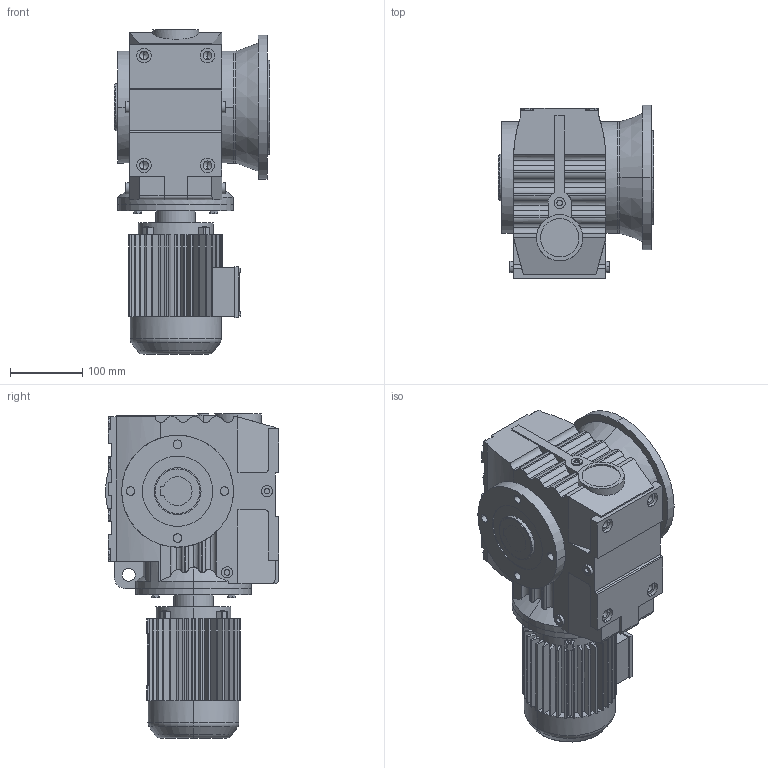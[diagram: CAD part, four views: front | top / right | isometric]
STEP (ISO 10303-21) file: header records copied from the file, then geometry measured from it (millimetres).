
FILE_DESCRIPTION(('Open CASCADE Model'),'2;1');
FILE_NAME('Open CASCADE Shape Model','2021-07-20T11:09:37',('Author'),( 'Open CASCADE'),'Open CASCADE STEP processor 6.3','Open CASCADE 6.3' ,'Unknown');
FILE_SCHEMA(('AUTOMOTIVE_DESIGN_CC2 { 1 2 10303 214 -1 1 5 4 }'));
Length unit declared in the file: millimetre
Products named in the file (5): 1_SAF67-Y63S-40-A; SA47‵97_67.step; 萇儂_160_Y63S.step; す瑩諾陑粣S_67_40.step; 楊擘S_67_200_SAF.step
Assembly tree (4 placements, depth 2):
  1_SAF67-Y63S-40-A
    SA47‵97_67.step
    萇儂_160_Y63S.step
    す瑩諾陑粣S_67_40.step
    楊擘S_67_200_SAF.step
Bounding box: 214.84 x 240 x 449 mm (x, y, z)
Volume: 9930002.1 mm3; surface area: 685717.7 mm2
Topology: 4 solids, 4 shells, 827 faces, 2154 edges, 1394 vertices
Faces by surface type: plane 527, cylinder 277, cone 19, torus 4
Entity records: 61121 total; most frequent: CARTESIAN_POINT 20702, DIRECTION 6853, ORIENTED_EDGE 4292, PCURVE 4292, DEFINITIONAL_REPRESENTATION 4292, LINE 3522, VECTOR 3522, EDGE_CURVE 2146
